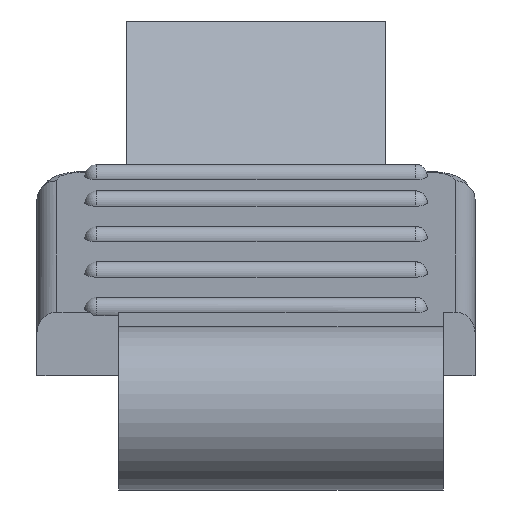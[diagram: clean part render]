
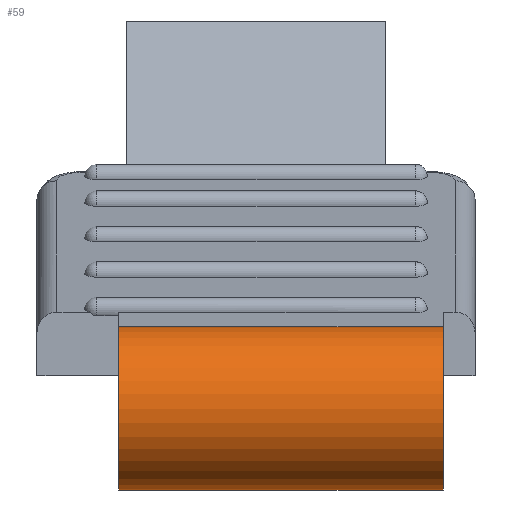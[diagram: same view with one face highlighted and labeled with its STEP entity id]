
A CAD part, front view. The second image highlights one B-rep face of the part: STEP entity #59.
In plain terms, the highlighted cylindrical face has radius 4.1 mm (diameter 8.2 mm), a partial arc.
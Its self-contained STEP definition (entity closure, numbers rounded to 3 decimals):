
#21 = EDGE_CURVE('',#22,#24,#26,.T.);
#22 = VERTEX_POINT('',#23);
#23 = CARTESIAN_POINT('',(-199.15,-113.,-0.65));
#24 = VERTEX_POINT('',#25);
#25 = CARTESIAN_POINT('',(-182.85,-113.,-0.65));
#26 = LINE('',#27,#28);
#27 = CARTESIAN_POINT('',(-199.15,-113.,-0.65));
#28 = VECTOR('',#29,1.);
#29 = DIRECTION('',(1.,0.,0.));
#59 = ADVANCED_FACE('',(#60),#87,.T.);
#60 = FACE_BOUND('',#61,.T.);
#61 = EDGE_LOOP('',(#62,#71,#72,#81));
#62 = ORIENTED_EDGE('',*,*,#63,.F.);
#63 = EDGE_CURVE('',#24,#64,#66,.T.);
#64 = VERTEX_POINT('',#65);
#65 = CARTESIAN_POINT('',(-182.85,-109.16,-3.314));
#66 = CIRCLE('',#67,4.1);
#67 = AXIS2_PLACEMENT_3D('',#68,#69,#70);
#68 = CARTESIAN_POINT('',(-182.85,-113.,-4.75));
#69 = DIRECTION('',(1.,0.,0.));
#70 = DIRECTION('',(-0.,0.,1.));
#71 = ORIENTED_EDGE('',*,*,#21,.F.);
#72 = ORIENTED_EDGE('',*,*,#73,.T.);
#73 = EDGE_CURVE('',#22,#74,#76,.T.);
#74 = VERTEX_POINT('',#75);
#75 = CARTESIAN_POINT('',(-199.15,-109.16,-3.314));
#76 = CIRCLE('',#77,4.1);
#77 = AXIS2_PLACEMENT_3D('',#78,#79,#80);
#78 = CARTESIAN_POINT('',(-199.15,-113.,-4.75));
#79 = DIRECTION('',(1.,0.,0.));
#80 = DIRECTION('',(-0.,0.,1.));
#81 = ORIENTED_EDGE('',*,*,#82,.T.);
#82 = EDGE_CURVE('',#74,#64,#83,.T.);
#83 = LINE('',#84,#85);
#84 = CARTESIAN_POINT('',(-199.15,-109.16,-3.314));
#85 = VECTOR('',#86,1.);
#86 = DIRECTION('',(1.,0.,0.));
#87 = CYLINDRICAL_SURFACE('',#88,4.1);
#88 = AXIS2_PLACEMENT_3D('',#89,#90,#91);
#89 = CARTESIAN_POINT('',(-199.15,-113.,-4.75));
#90 = DIRECTION('',(1.,0.,0.));
#91 = DIRECTION('',(-0.,0.,1.));
